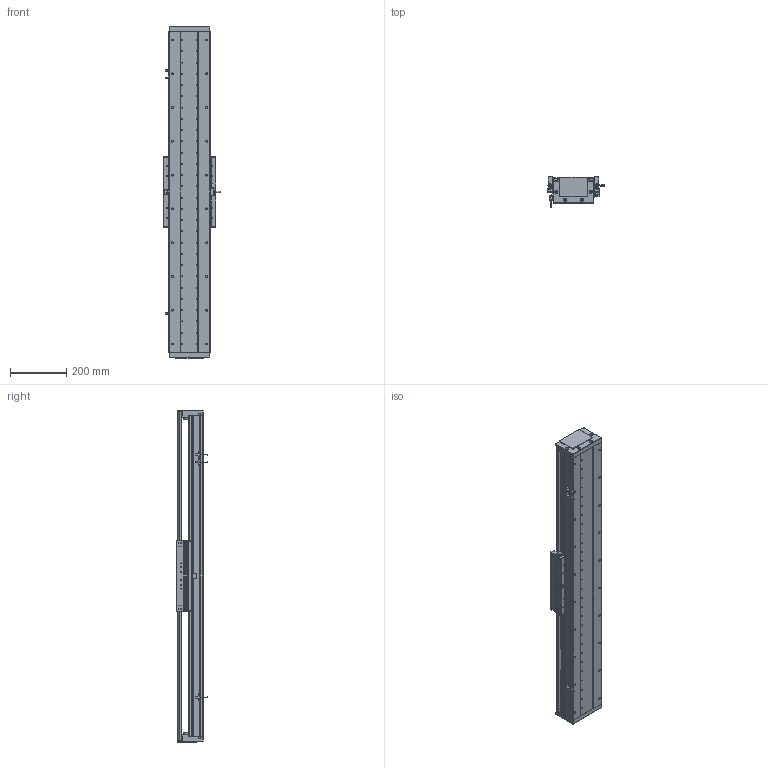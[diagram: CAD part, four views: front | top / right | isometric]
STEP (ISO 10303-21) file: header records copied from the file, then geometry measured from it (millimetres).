
FILE_DESCRIPTION (( 'STEP AP203' ), '1' );
FILE_NAME ('DA-C145-C3-T840-C010-0.2 眻盄萇儂.STEP', '2025-08-14T01:19:21', ( '' ), ( '' ), 'SwSTEP 2.0', 'SolidWorks 2019', '' );
FILE_SCHEMA (( 'CONFIG_CONTROL_DESIGN' ));
Length unit declared in the file: millimetre
Products named in the file (29): 葩璃 DA145-C3-DP-B-00 菜えB^CU145-W 幗紩賑怢; 复件 半圆头内六角螺钉 M3×6^CU145-W 滚珠滑台; 复件 DA145-GYP-00 光电感应片^DA-C145-C3-T-C010-0.2; IU-CU145-L 菁釱絳寢; 复件 DA95-MFP-01 密封片^CU145-W 滚珠滑台; 葩璃 DA145-C3-DP-A-00 菜えA^CU145-W 幗紩賑怢; 复件 DA95-DB-00  挡板^CU145-W 滚珠滑台; 复件 纯铜油杯 6x6mm^CU145-W 滚珠滑台; 葩璃 CKM03-W060-C1C2-TP-0.2^DA-C145-C3-T-C010-0.2; 66245-CU145-HT-W-00 賑雄怢啣(3D芞祧)(00); 葩璃 DMA-010-0.2 黍杅芛^DA-C145-C3-T-C010-0.2; 复件 DA145-C3-YB-B-00 压板B^CU145-W 滚珠滑台; 复件 内六角平端紧定螺钉 GB.T77-2000 M5×10^CU145-W 滚珠滑台; 复件 DA95-HK-GT-00 滑块钢轨^CU145-W-00 一体化滑动台板; 葩璃 DA145-T-003-00 裔啣^DA-C145-C3-T-C010-0.2; IU-CU145-L-00 菁釱(L1140); CU145-W 幗紩賑怢; 葩璃 DA95-GT-T-00^IU-CU145-L 菁釱絳寢; 葩璃 DA95-HXJ-00 遣喳砎蝶^DA-C145-C3-T-C010-0.2; TAY01-M8; DA-C145-C3-T840-C010-0.2 眻盄萇儂; 复件 DA145-C3-YB-A-00 压板A^CU145-W 滚珠滑台; 葩璃 XD-U-02L 棠掑喜^DA-C145-C3-T-C010-0.2; CU145-W-00 珨极趙賑雄怢啣; 复件 DA145-C3-DK-00 挡块^CU145-W 滚珠滑台; 葩璃 CKMA01-W060-TRL^DA-C145-C3-T-C010-0.2; 葩璃 鞠褒情蹟譫 M3^DA-C145-C3-T-C010-0.2; 葩璃 DA145-DG-H-N-00 傷裔^DA-C145-C3-T-C010-0.2; 葩璃 PM-T45^DA-C145-C3-T-C010-0.2
Assembly tree (98 placements, depth 4):
  DA-C145-C3-T840-C010-0.2 眻盄萇儂
    IU-CU145-L 菁釱絳寢
      IU-CU145-L-00 菁釱(L1140)
      葩璃 DA95-GT-T-00^IU-CU145-L 菁釱絳寢  x4
    CU145-W 幗紩賑怢
      CU145-W-00 珨极趙賑雄怢啣
        66245-CU145-HT-W-00 賑雄怢啣(3D芞祧)(00)
        复件 DA95-HK-GT-00 滑块钢轨^CU145-W-00 一体化滑动台板  x8
      复件 DA95-MFP-01 密封片^CU145-W 滚珠滑台  x8
      复件 DA95-DB-00  挡板^CU145-W 滚珠滑台  x8
      复件 内六角平端紧定螺钉 GB.T77-2000 M5×10^CU145-W 滚珠滑台  x4
      复件 纯铜油杯 6x6mm^CU145-W 滚珠滑台  x4
      复件 半圆头内六角螺钉 M3×6^CU145-W 滚珠滑台  x16
      复件 DA145-C3-DK-00 挡块^CU145-W 滚珠滑台  x4
      葩璃 DA145-C3-DP-B-00 菜えB^CU145-W 幗紩賑怢  x2
      复件 DA145-C3-YB-B-00 压板B^CU145-W 滚珠滑台  x2
      葩璃 DA145-C3-DP-A-00 菜えA^CU145-W 幗紩賑怢  x3
      复件 DA145-C3-YB-A-00 压板A^CU145-W 滚珠滑台  x3
      TAY01-M8  x4
    葩璃 CKMA01-W060-TRL^DA-C145-C3-T-C010-0.2
    葩璃 PM-T45^DA-C145-C3-T-C010-0.2  x3
    葩璃 XD-U-02L 棠掑喜^DA-C145-C3-T-C010-0.2
    葩璃 DA145-DG-H-N-00 傷裔^DA-C145-C3-T-C010-0.2  x2
    葩璃 DA145-T-003-00 裔啣^DA-C145-C3-T-C010-0.2
    葩璃 DA95-HXJ-00 遣喳砎蝶^DA-C145-C3-T-C010-0.2  x4
    复件 DA145-GYP-00 光电感应片^DA-C145-C3-T-C010-0.2
    葩璃 DMA-010-0.2 黍杅芛^DA-C145-C3-T-C010-0.2
    葩璃 CKM03-W060-C1C2-TP-0.2^DA-C145-C3-T-C010-0.2
    葩璃 鞠褒情蹟譫 M3^DA-C145-C3-T-C010-0.2  x8
Bounding box: 203.5 x 108.45 x 1180 mm (x, y, z)
Volume: 7536638.4 mm3; surface area: 2224867.3 mm2
Topology: 95 solids, 127 shells, 4004 faces, 10731 edges, 6632 vertices
Faces by surface type: cylinder 1711, plane 1577, cone 626, torus 86, sphere 4
Entity records: 93885 total; most frequent: CARTESIAN_POINT 24096, DIRECTION 13617, ORIENTED_EDGE 13460, EDGE_CURVE 6730, AXIS2_PLACEMENT_3D 5066, VERTEX_POINT 4321, VECTOR 3485, LINE 3485
